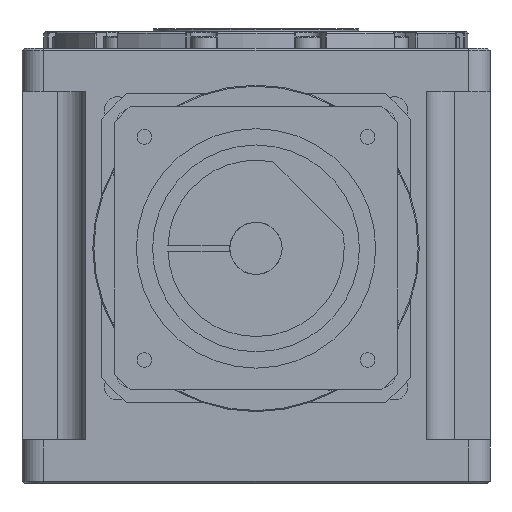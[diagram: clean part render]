
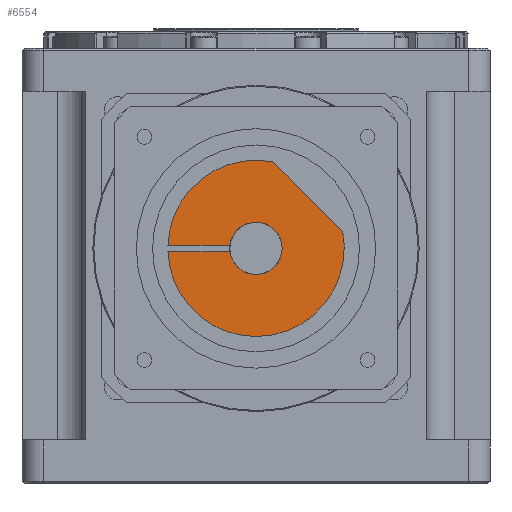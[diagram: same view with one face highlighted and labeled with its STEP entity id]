
A CAD part, front view. The second image highlights one B-rep face of the part: STEP entity #6554.
In plain terms, the highlighted planar face has unit normal (0, -1, 0) as drawn and (0, 0, -1) by its records, which use the part's own axes.
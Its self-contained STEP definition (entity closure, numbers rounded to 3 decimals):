
#481 = AXIS2_PLACEMENT_3D ( 'NONE', #24008, #11468, #9499 ) ;
#903 = CARTESIAN_POINT ( 'NONE',  ( 40.5, 0., -166. ) ) ;
#1756 = LINE ( 'NONE', #18114, #24269 ) ;
#2627 = AXIS2_PLACEMENT_3D ( 'NONE', #6606, #4632, #2653 ) ;
#2653 = DIRECTION ( 'NONE',  ( -1., 0., 0. ) ) ;
#3150 = DIRECTION ( 'NONE',  ( -1., 0., 0. ) ) ;
#3528 = CARTESIAN_POINT ( 'NONE',  ( 0., 0., -166. ) ) ;
#3761 = AXIS2_PLACEMENT_3D ( 'NONE', #6674, #18833, #22777 ) ;
#4067 = ORIENTED_EDGE ( 'NONE', *, *, #17014, .T. ) ;
#4068 = VERTEX_POINT ( 'NONE', #25300 ) ;
#4632 = DIRECTION ( 'NONE',  ( 0., 0., -1. ) ) ;
#5262 = CARTESIAN_POINT ( 'NONE',  ( 0., 0., -166. ) ) ;
#5349 = EDGE_CURVE ( 'NONE', #18964, #18642, #5948, .T. ) ;
#5524 = EDGE_CURVE ( 'NONE', #18964, #7923, #8001, .T. ) ;
#5948 = CIRCLE ( 'NONE', #6784, 40.5 ) ;
#6304 = VERTEX_POINT ( 'NONE', #15861 ) ;
#6554 = ADVANCED_FACE ( 'NONE', ( #8600 ), #24697, .T. ) ;
#6606 = CARTESIAN_POINT ( 'NONE',  ( 0., 0., -166. ) ) ;
#6612 = DIRECTION ( 'NONE',  ( -1., 0., 0. ) ) ;
#6674 = CARTESIAN_POINT ( 'NONE',  ( 0., 0., -166. ) ) ;
#6784 = AXIS2_PLACEMENT_3D ( 'NONE', #3528, #7352, #11181 ) ;
#7352 = DIRECTION ( 'NONE',  ( 0., 0., -1. ) ) ;
#7380 = EDGE_LOOP ( 'NONE', ( #13119, #7916, #8819, #12818, #9699, #20226, #4067, #11618 ) ) ;
#7916 = ORIENTED_EDGE ( 'NONE', *, *, #5349, .T. ) ;
#7923 = VERTEX_POINT ( 'NONE', #21765 ) ;
#8001 = LINE ( 'NONE', #23857, #20254 ) ;
#8600 = FACE_OUTER_BOUND ( 'NONE', #7380, .T. ) ;
#8755 = CARTESIAN_POINT ( 'NONE',  ( -11.906, 1.5, -166. ) ) ;
#8819 = ORIENTED_EDGE ( 'NONE', *, *, #10615, .F. ) ;
#9499 = DIRECTION ( 'NONE',  ( -1., 0., 0. ) ) ;
#9699 = ORIENTED_EDGE ( 'NONE', *, *, #23263, .F. ) ;
#9949 = VERTEX_POINT ( 'NONE', #22418 ) ;
#10615 = EDGE_CURVE ( 'NONE', #9949, #18642, #1756, .T. ) ;
#10686 = DIRECTION ( 'NONE',  ( 1., 0., 0. ) ) ;
#11181 = DIRECTION ( 'NONE',  ( -1., 0., 0. ) ) ;
#11268 = EDGE_CURVE ( 'NONE', #4068, #19728, #25198, .T. ) ;
#11417 = AXIS2_PLACEMENT_3D ( 'NONE', #20604, #16910, #6612 ) ;
#11468 = DIRECTION ( 'NONE',  ( 0., 0., -1. ) ) ;
#11618 = ORIENTED_EDGE ( 'NONE', *, *, #22518, .T. ) ;
#11654 = DIRECTION ( 'NONE',  ( -1., 0., 0. ) ) ;
#11805 = CARTESIAN_POINT ( 'NONE',  ( -40.472, -1.5, -166. ) ) ;
#12818 = ORIENTED_EDGE ( 'NONE', *, *, #18392, .F. ) ;
#13119 = ORIENTED_EDGE ( 'NONE', *, *, #5524, .F. ) ;
#14898 = DIRECTION ( 'NONE',  ( 0., 0., -1. ) ) ;
#15252 = CIRCLE ( 'NONE', #481, 12. ) ;
#15814 = VECTOR ( 'NONE', #10686, 1000. ) ;
#15861 = CARTESIAN_POINT ( 'NONE',  ( 12., 0., -166. ) ) ;
#16449 = AXIS2_PLACEMENT_3D ( 'NONE', #5262, #14898, #3150 ) ;
#16903 = CIRCLE ( 'NONE', #11417, 40.5 ) ;
#16910 = DIRECTION ( 'NONE',  ( 0., 0., -1. ) ) ;
#17014 = EDGE_CURVE ( 'NONE', #4068, #25834, #26122, .T. ) ;
#18114 = CARTESIAN_POINT ( 'NONE',  ( -8.592, -1.5, -166. ) ) ;
#18392 = EDGE_CURVE ( 'NONE', #6304, #9949, #23561, .T. ) ;
#18642 = VERTEX_POINT ( 'NONE', #11805 ) ;
#18833 = DIRECTION ( 'NONE',  ( 0., 0., -1. ) ) ;
#18964 = VERTEX_POINT ( 'NONE', #20727 ) ;
#19728 = VERTEX_POINT ( 'NONE', #8755 ) ;
#20226 = ORIENTED_EDGE ( 'NONE', *, *, #11268, .F. ) ;
#20254 = VECTOR ( 'NONE', #23978, 1000. ) ;
#20604 = CARTESIAN_POINT ( 'NONE',  ( 0., 0., -166. ) ) ;
#20718 = CARTESIAN_POINT ( 'NONE',  ( -8.592, 1.5, -166. ) ) ;
#20727 = CARTESIAN_POINT ( 'NONE',  ( 7.748, -39.752, -166. ) ) ;
#21765 = CARTESIAN_POINT ( 'NONE',  ( 39.752, -7.748, -166. ) ) ;
#22418 = CARTESIAN_POINT ( 'NONE',  ( -11.906, -1.5, -166. ) ) ;
#22518 = EDGE_CURVE ( 'NONE', #25834, #7923, #16903, .T. ) ;
#22777 = DIRECTION ( 'NONE',  ( -1., 0., 0. ) ) ;
#23263 = EDGE_CURVE ( 'NONE', #19728, #6304, #15252, .T. ) ;
#23561 = CIRCLE ( 'NONE', #3761, 12. ) ;
#23857 = CARTESIAN_POINT ( 'NONE',  ( 23.75, -23.75, -166. ) ) ;
#23978 = DIRECTION ( 'NONE',  ( 0.707, 0.707, 0. ) ) ;
#24008 = CARTESIAN_POINT ( 'NONE',  ( 0., 0., -166. ) ) ;
#24269 = VECTOR ( 'NONE', #11654, 1000. ) ;
#24697 = PLANE ( 'NONE',  #2627 ) ;
#25198 = LINE ( 'NONE', #20718, #15814 ) ;
#25300 = CARTESIAN_POINT ( 'NONE',  ( -40.472, 1.5, -166. ) ) ;
#25834 = VERTEX_POINT ( 'NONE', #903 ) ;
#26122 = CIRCLE ( 'NONE', #16449, 40.5 ) ;
